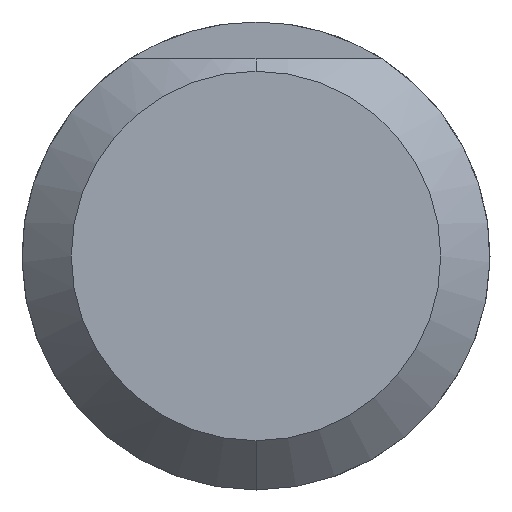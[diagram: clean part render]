
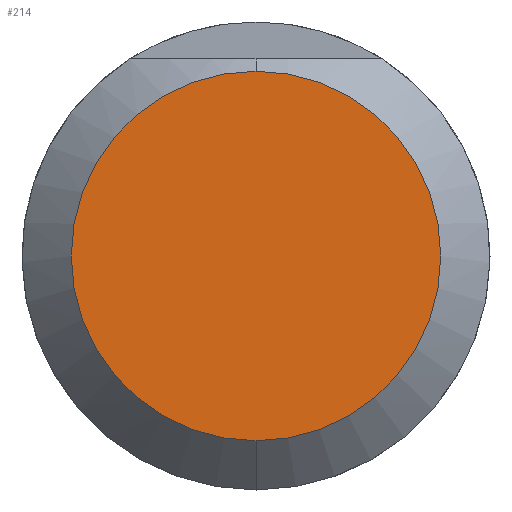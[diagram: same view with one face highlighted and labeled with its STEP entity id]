
A CAD part, front view. The second image highlights one B-rep face of the part: STEP entity #214.
In plain terms, the highlighted planar face has unit normal (0, -1, 0).
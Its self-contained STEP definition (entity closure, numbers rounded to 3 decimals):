
#9 = CIRCLE ( 'NONE', #183, 3.75 ) ;
#10 = CARTESIAN_POINT ( 'NONE',  ( 0., 0., 3.75 ) ) ;
#31 = CIRCLE ( 'NONE', #58, 3.75 ) ;
#58 = AXIS2_PLACEMENT_3D ( 'NONE', #82, #233, #81 ) ;
#81 = DIRECTION ( 'NONE',  ( 0., 0., 1. ) ) ;
#82 = CARTESIAN_POINT ( 'NONE',  ( 0., 0., 0. ) ) ;
#107 = DIRECTION ( 'NONE',  ( 0., 0., 1. ) ) ;
#126 = EDGE_LOOP ( 'NONE', ( #162, #325 ) ) ;
#131 = AXIS2_PLACEMENT_3D ( 'NONE', #324, #215, #107 ) ;
#142 = VERTEX_POINT ( 'NONE', #152 ) ;
#146 = EDGE_CURVE ( 'NONE', #142, #274, #31, .T. ) ;
#152 = CARTESIAN_POINT ( 'NONE',  ( 0., 0., -3.75 ) ) ;
#153 = CARTESIAN_POINT ( 'NONE',  ( 0., 0., 0. ) ) ;
#154 = EDGE_CURVE ( 'NONE', #274, #142, #9, .T. ) ;
#162 = ORIENTED_EDGE ( 'NONE', *, *, #154, .T. ) ;
#183 = AXIS2_PLACEMENT_3D ( 'NONE', #153, #255, #232 ) ;
#214 = ADVANCED_FACE ( 'NONE', ( #243 ), #272, .F. ) ;
#215 = DIRECTION ( 'NONE',  ( 0., 1., 0. ) ) ;
#232 = DIRECTION ( 'NONE',  ( 0., 0., 1. ) ) ;
#233 = DIRECTION ( 'NONE',  ( 0., -1., 0. ) ) ;
#243 = FACE_OUTER_BOUND ( 'NONE', #126, .T. ) ;
#255 = DIRECTION ( 'NONE',  ( 0., -1., 0. ) ) ;
#272 = PLANE ( 'NONE',  #131 ) ;
#274 = VERTEX_POINT ( 'NONE', #10 ) ;
#324 = CARTESIAN_POINT ( 'NONE',  ( 0., 0., 0. ) ) ;
#325 = ORIENTED_EDGE ( 'NONE', *, *, #146, .T. ) ;
